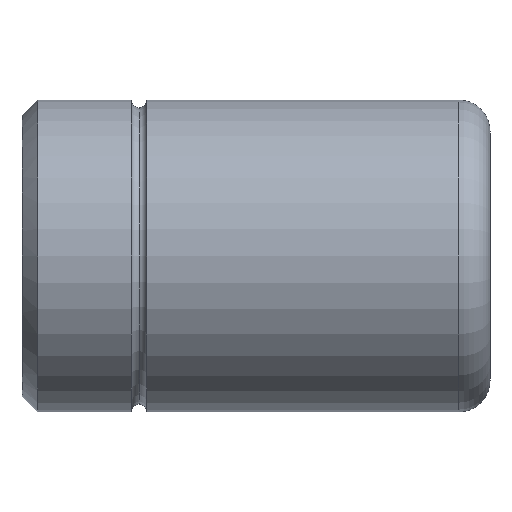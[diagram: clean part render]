
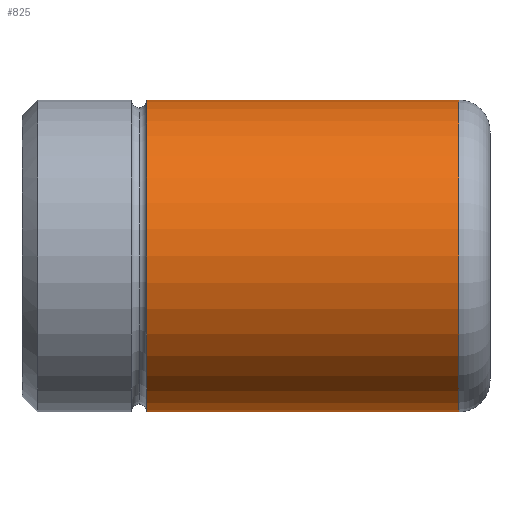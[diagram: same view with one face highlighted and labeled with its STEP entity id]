
A CAD part, front view. The second image highlights one B-rep face of the part: STEP entity #825.
In plain terms, the highlighted cylindrical face has radius 15 mm (diameter 30 mm), a partial arc.
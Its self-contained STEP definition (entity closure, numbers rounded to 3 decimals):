
#641=CARTESIAN_POINT('Vertex',(12.,0.,15.)) ;
#648=CARTESIAN_POINT('Vertex',(12.,0.,-15.)) ;
#674=CARTESIAN_POINT('Axis2P3D Location',(12.,0.,0.)) ;
#678=CARTESIAN_POINT('Vertex',(12.,-15.,0.)) ;
#681=CARTESIAN_POINT('Axis2P3D Location',(12.,0.,0.)) ;
#765=CARTESIAN_POINT('Line Origine',(45.,0.,15.)) ;
#769=CARTESIAN_POINT('Vertex',(42.,0.,15.)) ;
#783=CARTESIAN_POINT('Vertex',(42.,0.,-15.)) ;
#786=CARTESIAN_POINT('Line Origine',(45.,0.,-15.)) ;
#800=CARTESIAN_POINT('Axis2P3D Location',(45.,0.,0.)) ;
#805=CARTESIAN_POINT('Axis2P3D Location',(42.,0.,0.)) ;
#809=CARTESIAN_POINT('Vertex',(42.,-15.,0.)) ;
#812=CARTESIAN_POINT('Axis2P3D Location',(42.,0.,0.)) ;
#675=DIRECTION('Axis2P3D Direction',(1.,0.,-0.)) ;
#682=DIRECTION('Axis2P3D Direction',(1.,0.,-0.)) ;
#766=DIRECTION('Vector Direction',(-1.,0.,0.)) ;
#787=DIRECTION('Vector Direction',(-1.,0.,0.)) ;
#801=DIRECTION('Axis2P3D Direction',(-1.,-0.,-0.)) ;
#802=DIRECTION('Axis2P3D XDirection',(0.,0.,-1.)) ;
#806=DIRECTION('Axis2P3D Direction',(-1.,-0.,-0.)) ;
#813=DIRECTION('Axis2P3D Direction',(-1.,-0.,-0.)) ;
#676=AXIS2_PLACEMENT_3D('Circle Axis2P3D',#674,#675,$) ;
#683=AXIS2_PLACEMENT_3D('Circle Axis2P3D',#681,#682,$) ;
#803=AXIS2_PLACEMENT_3D('Cylinder Axis2P3D',#800,#801,#802) ;
#807=AXIS2_PLACEMENT_3D('Circle Axis2P3D',#805,#806,$) ;
#814=AXIS2_PLACEMENT_3D('Circle Axis2P3D',#812,#813,$) ;
#818=ORIENTED_EDGE('',*,*,#790,.T.) ;
#819=ORIENTED_EDGE('',*,*,#811,.F.) ;
#820=ORIENTED_EDGE('',*,*,#816,.F.) ;
#821=ORIENTED_EDGE('',*,*,#771,.T.) ;
#822=ORIENTED_EDGE('',*,*,#685,.T.) ;
#823=ORIENTED_EDGE('',*,*,#680,.T.) ;
#767=VECTOR('Line Direction',#766,1.) ;
#788=VECTOR('Line Direction',#787,1.) ;
#825=ADVANCED_FACE('347-20 x 45',(#824),#804,.T.) ;
#677=CIRCLE('generated circle',#676,15.) ;
#684=CIRCLE('generated circle',#683,15.) ;
#808=CIRCLE('generated circle',#807,15.) ;
#815=CIRCLE('generated circle',#814,15.) ;
#804=CYLINDRICAL_SURFACE('generated cylinder',#803,15.) ;
#680=EDGE_CURVE('',#679,#649,#677,.T.) ;
#685=EDGE_CURVE('',#642,#679,#684,.T.) ;
#771=EDGE_CURVE('',#770,#642,#768,.T.) ;
#790=EDGE_CURVE('',#649,#784,#789,.F.) ;
#811=EDGE_CURVE('',#810,#784,#808,.F.) ;
#816=EDGE_CURVE('',#770,#810,#815,.F.) ;
#817=EDGE_LOOP('',(#818,#819,#820,#821,#822,#823)) ;
#824=FACE_OUTER_BOUND('',#817,.T.) ;
#768=LINE('Line',#765,#767) ;
#789=LINE('Line',#786,#788) ;
#642=VERTEX_POINT('',#641) ;
#649=VERTEX_POINT('',#648) ;
#679=VERTEX_POINT('',#678) ;
#770=VERTEX_POINT('',#769) ;
#784=VERTEX_POINT('',#783) ;
#810=VERTEX_POINT('',#809) ;
